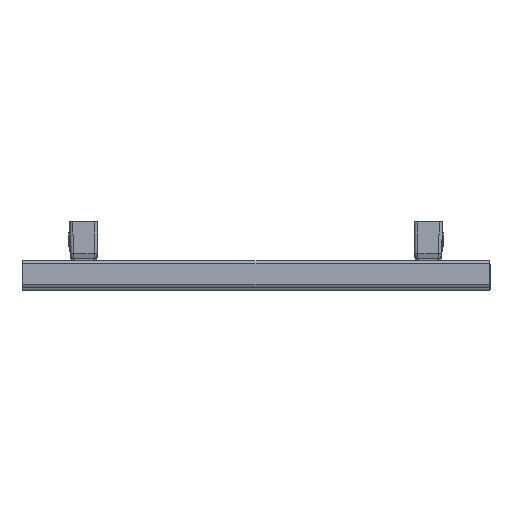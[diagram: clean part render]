
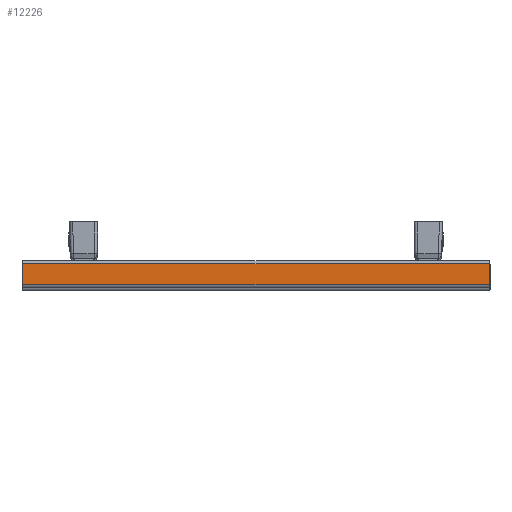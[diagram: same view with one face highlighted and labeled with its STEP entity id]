
A CAD part, top view. The second image highlights one B-rep face of the part: STEP entity #12226.
In plain terms, the highlighted planar face has unit normal (0, 0, 1).
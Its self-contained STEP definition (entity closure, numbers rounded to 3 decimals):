
#11511=CARTESIAN_POINT('',(-204.,-12.,1900.));
#11512=VERTEX_POINT('',#11511);
#11579=CARTESIAN_POINT('',(-204.,12.,1900.));
#11580=VERTEX_POINT('',#11579);
#11597=CARTESIAN_POINT('',(-204.,-12.,1900.));
#11598=DIRECTION('',(0.0,1.0,0.0));
#11599=VECTOR('',#11598,24.);
#11600=LINE('',#11597,#11599);
#11601=EDGE_CURVE('',#11512,#11580,#11600,.T.);
#11751=CARTESIAN_POINT('',(324.,12.,1900.));
#11752=VERTEX_POINT('',#11751);
#11760=CARTESIAN_POINT('',(324.0,-12.,1900.));
#11761=VERTEX_POINT('',#11760);
#11762=CARTESIAN_POINT('',(324.,12.,1900.));
#11763=DIRECTION('',(0.0,-1.0,0.0));
#11764=VECTOR('',#11763,24.0);
#11765=LINE('',#11762,#11764);
#11766=EDGE_CURVE('',#11752,#11761,#11765,.T.);
#12198=CARTESIAN_POINT('',(324.,-12.,1900.));
#12199=DIRECTION('',(-1.0,0.0,0.0));
#12200=VECTOR('',#12199,528.0);
#12201=LINE('',#12198,#12200);
#12202=EDGE_CURVE('',#11761,#11512,#12201,.T.);
#12210=CARTESIAN_POINT('',(60.,-12.,1900.));
#12211=DIRECTION('',(0.0,0.0,1.0));
#12212=DIRECTION('',(-1.0,0.0,0.0));
#12213=AXIS2_PLACEMENT_3D('',#12210,#12211,#12212);
#12214=PLANE('',#12213);
#12215=CARTESIAN_POINT('',(324.,12.,1900.));
#12216=DIRECTION('',(-1.0,0.0,0.0));
#12217=VECTOR('',#12216,528.0);
#12218=LINE('',#12215,#12217);
#12219=EDGE_CURVE('',#11752,#11580,#12218,.T.);
#12220=ORIENTED_EDGE('',*,*,#12219,.T.);
#12221=ORIENTED_EDGE('',*,*,#11601,.F.);
#12222=ORIENTED_EDGE('',*,*,#12202,.F.);
#12223=ORIENTED_EDGE('',*,*,#11766,.F.);
#12224=EDGE_LOOP('',(#12220,#12221,#12222,#12223));
#12225=FACE_OUTER_BOUND('',#12224,.T.);
#12226=ADVANCED_FACE('',(#12225),#12214,.T.);
